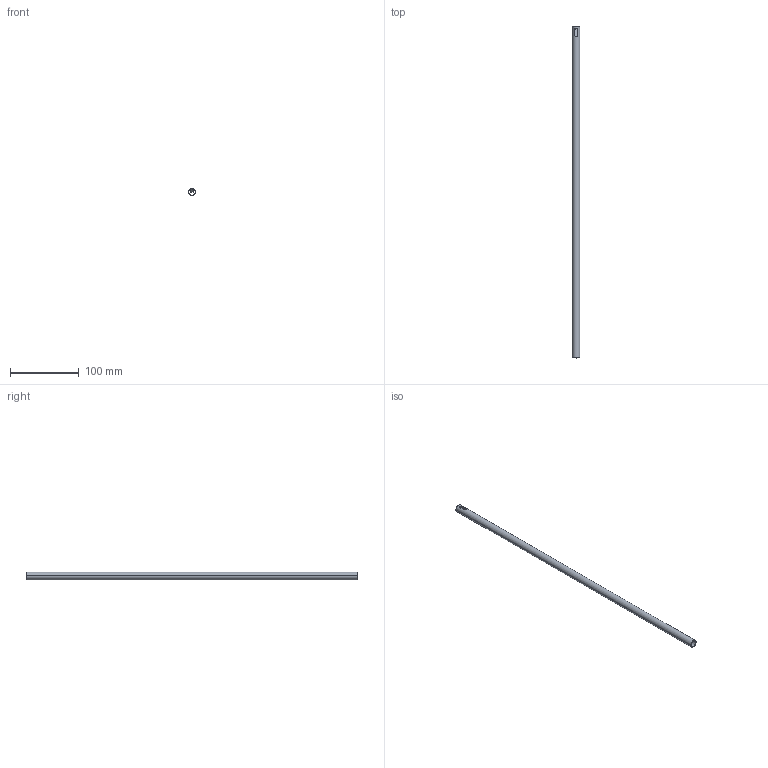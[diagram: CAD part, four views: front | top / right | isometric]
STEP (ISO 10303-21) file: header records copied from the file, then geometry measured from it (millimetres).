
FILE_DESCRIPTION (( 'STEP AP214' ), '1' );
FILE_NAME ('Relingsrohr_2S-Rundrel_P760604300_506.step', '2010-09-07T12:59:24', ( 'grass' ), ( '' ), 'SwSTEP 2.0', 'SolidWorks 2010', '' );
FILE_SCHEMA (( 'AUTOMOTIVE_DESIGN' ));
Length unit declared in the file: millimetre
Products named in the file (1): Relingsrohr_2S-Rundrel_P760604300_506
Bounding box: 11 x 482 x 11 mm (x, y, z)
Volume: 15140.2 mm3; surface area: 30388.3 mm2
Topology: 1 solids, 1 shells, 14 faces, 34 edges, 22 vertices
Faces by surface type: plane 10, cylinder 4
Entity records: 476 total; most frequent: CARTESIAN_POINT 77, DIRECTION 72, ORIENTED_EDGE 68, EDGE_CURVE 34, AXIS2_PLACEMENT_3D 25, LINE 22, VECTOR 22, VERTEX_POINT 22
